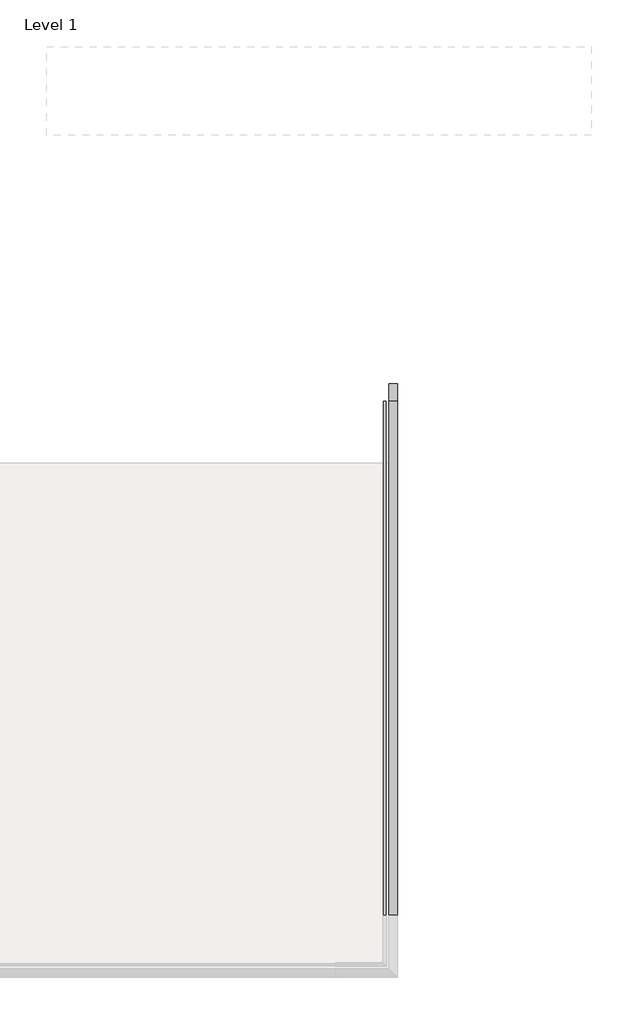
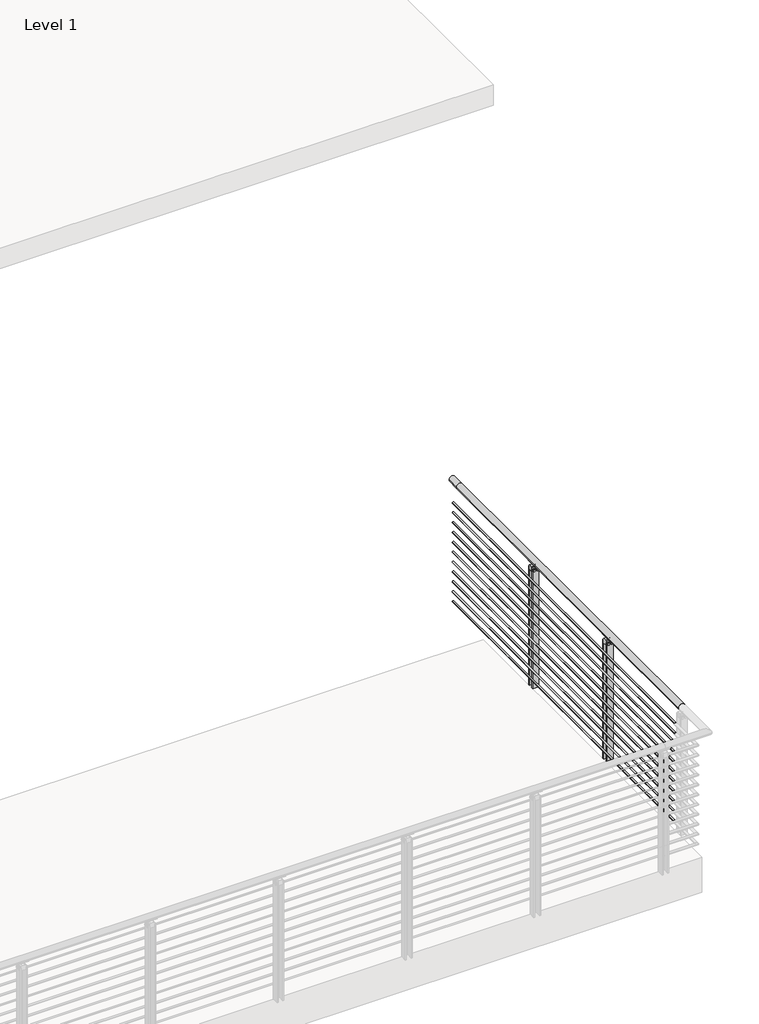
# One storey, part 11 of 36: 1 railing.
"""IFC4 building model written with IfcOpenShell, lengths in millimetres."""

import ifcopenshell
import ifcopenshell.guid

model = None  # the IFC model being written
_history = None  # IfcOwnerHistory: only IFC2X3 demands one
_inside = {}  # id of a spatial element -> (the spatial element, [elements in it])
_under = {}  # id of a project, library or spatial element -> (it, [spatial elements below it])
_declared = {}  # id of a project -> (the project, [libraries it declares])
_typed = {}  # id of a type object -> (the type object, [elements of that type])
_made_of = {}  # id of a material, layer set ... -> (it, [elements and type objects made of it])


def new_model(schema):
    """Start an empty IFC model of exactly this schema.

    Asked for "IFC4X3", IfcOpenShell would pick the latest addendum, in which some entities
    have other attributes; the version numbers below select the first issue.
    IFC2X3 requires an IfcOwnerHistory on every rooted entity: one is made here for all.
    """
    global model, _history
    if schema == "IFC4X3":
        model = ifcopenshell.file(schema_version=(4, 3, 0, 0))
    else:
        model = ifcopenshell.file(schema=schema)
    _inside.clear()
    _under.clear()
    _declared.clear()
    _typed.clear()
    _made_of.clear()
    _history = None
    if model.schema == "IFC2X3":
        org = make("IfcOrganization", Name="unknown")
        user = make(
            "IfcPersonAndOrganization",
            ThePerson=make("IfcPerson", FamilyName="unknown"),
            TheOrganization=org,
        )
        app = make(
            "IfcApplication",
            ApplicationDeveloper=org,
            Version="unknown",
            ApplicationFullName="unknown",
            ApplicationIdentifier="unknown",
        )
        _history = make(
            "IfcOwnerHistory",
            OwningUser=user,
            OwningApplication=app,
            ChangeAction="ADDED",
            CreationDate=0,
        )
    return model


def make(cls, **values):
    """One entity of the class cls with the attributes given. An attribute that is None is left unset."""
    return model.create_entity(
        cls, **{name: value for name, value in values.items() if value is not None}
    )


def rooted(cls, **values):
    """An entity with a GlobalId (a new one), such as an element, a storey or a relation."""
    return make(cls, GlobalId=ifcopenshell.guid.new(), OwnerHistory=_history, **values)


def si_unit(unit_type, name, prefix=None):
    """IfcSIUnit, for example si_unit("LENGTHUNIT", "METRE", prefix="MILLI")."""
    return make("IfcSIUnit", UnitType=unit_type, Prefix=prefix, Name=name)


def assignment(units):
    """IfcUnitAssignment: the units of a project."""
    return None if units is None else make("IfcUnitAssignment", Units=units)


def point(xyz):
    """IfcCartesianPoint."""
    return None if xyz is None else make("IfcCartesianPoint", Coordinates=xyz)


def direction(xyz):
    """IfcDirection."""
    return None if xyz is None else make("IfcDirection", DirectionRatios=xyz)


def frame(location, z_axis=None, x_axis=None):
    """IfcAxis2Placement3D, a coordinate frame: its origin and axes. An axis left out is left unset."""
    return make(
        "IfcAxis2Placement3D",
        Location=point(location),
        Axis=direction(z_axis),
        RefDirection=direction(x_axis),
    )


def frame_2d(location, x_axis=None):
    """IfcAxis2Placement2D, a coordinate frame in the plane: its origin and x axis."""
    return make(
        "IfcAxis2Placement2D", Location=point(location), RefDirection=direction(x_axis)
    )


def origin():
    """The frame at (0, 0, 0) with its axes left unset."""
    return frame((0.0, 0.0, 0.0))


def origin_with_axes():
    """The frame at (0, 0, 0) with the z axis (0, 0, 1) and the x axis (1, 0, 0) written out."""
    return frame((0.0, 0.0, 0.0), z_axis=(0.0, 0.0, 1.0), x_axis=(1.0, 0.0, 0.0))


def place(relative_to, where):
    """IfcLocalPlacement: puts the frame where relative to a parent placement (None: the world)."""
    return make(
        "IfcLocalPlacement", PlacementRelTo=relative_to, RelativePlacement=where
    )


def context(
    kind, dimensions, precision=None, world=None, true_north=None, identifier=None
):
    """IfcGeometricRepresentationContext, for example the 3D "Model" context."""
    return make(
        "IfcGeometricRepresentationContext",
        ContextIdentifier=identifier,
        ContextType=kind,
        CoordinateSpaceDimension=dimensions,
        Precision=precision,
        WorldCoordinateSystem=world,
        TrueNorth=true_north,
    )


def project(units=None, contexts=None):
    """IfcProject with its units and contexts."""
    return rooted(
        "IfcProject",
        Name="project",
        RepresentationContexts=contexts,
        UnitsInContext=assignment(units),
    )


def spatial(cls, under=None, at=None, **own):
    """A site, building, storey or space (cls), placed at a placement, below another one or the project."""
    s = rooted(cls, ObjectPlacement=at, **own)
    if under is not None:
        _under.setdefault(under.id(), (under, []))[1].append(s)
    return s


def polyline(points):
    """IfcPolyline through the points."""
    return make("IfcPolyline", Points=[point(p) for p in points])


def circle_curve(where, radius):
    """IfcCircle in the frame where."""
    return make("IfcCircle", Position=where, Radius=radius)


def trimmed(basis, trim1, trim2, sense, master):
    """IfcTrimmedCurve: the piece of a basis curve between two trims."""
    return make(
        "IfcTrimmedCurve",
        BasisCurve=basis,
        Trim1=trim1,
        Trim2=trim2,
        SenseAgreement=sense,
        MasterRepresentation=master,
    )


def segment(curve, same_sense, transition):
    """IfcCompositeCurveSegment."""
    return make(
        "IfcCompositeCurveSegment",
        Transition=transition,
        SameSense=same_sense,
        ParentCurve=curve,
    )


def composite_curve(segments, self_intersect=None):
    """IfcCompositeCurve: segments joined end to end."""
    return make("IfcCompositeCurve", Segments=segments, SelfIntersect=self_intersect)


def outline(outer, holes=None, kind="AREA"):
    """IfcArbitraryClosedProfileDef: a profile drawn as a closed curve; with holes, ...WithVoids."""
    if holes is None:
        return make("IfcArbitraryClosedProfileDef", ProfileType=kind, OuterCurve=outer)
    return make(
        "IfcArbitraryProfileDefWithVoids",
        ProfileType=kind,
        OuterCurve=outer,
        InnerCurves=holes,
    )


def extrude(swept, where, along, depth):
    """IfcExtrudedAreaSolid: the profile swept, set in the frame where, extruded along a direction by depth."""
    return make(
        "IfcExtrudedAreaSolid",
        SweptArea=swept,
        Position=where,
        ExtrudedDirection=direction(along),
        Depth=depth,
    )


def shape(context_of_items, identifier, shape_type, items):
    """IfcShapeRepresentation: the items that make up one representation, for example the "Body"."""
    return make(
        "IfcShapeRepresentation",
        ContextOfItems=context_of_items,
        RepresentationIdentifier=identifier,
        RepresentationType=shape_type,
        Items=items,
    )


def made_of(thing, what):
    """Note that an element or type object is made of a material, layer set ...; save() writes the relation."""
    if what is not None:
        _made_of.setdefault(what.id(), (what, []))[1].append(thing)
    return thing


def element(
    cls,
    number,
    at=None,
    inside=None,
    cuts=None,
    type_object=None,
    material=None,
    context=None,
    identifier="Body",
    shape_type=None,
    held_by="IfcProductDefinitionShape",
    body=None,
    shapes=None,
    **own,
):
    """One element of the class cls, such as IfcWall. Its Tag is "e" and its number.

    at: its placement. inside: the storey or other place that contains it. cuts: it is an
    opening in that element (IfcRelVoidsElement). A single representation is given by context,
    identifier, shape_type and body (its items); several are given by shapes. held_by: the class
    of the entity that holds the representations. save() writes the other relations.
    """
    e = rooted(cls, Tag="e%d" % number, ObjectPlacement=at, **own)
    if body is not None:
        shapes = [shape(context, identifier, shape_type, body)]
    if shapes is not None:
        e.Representation = make(held_by, Representations=shapes)
    if inside is not None:
        _inside.setdefault(inside.id(), (inside, []))[1].append(e)
    if cuts is not None:
        rooted(
            "IfcRelVoidsElement", RelatingBuildingElement=cuts, RelatedOpeningElement=e
        )
    if type_object is not None:
        _typed.setdefault(type_object.id(), (type_object, []))[1].append(e)
    return made_of(e, material)


def aggregate(whole, parts):
    """IfcRelAggregates: a whole, such as a stair, and the parts it consists of."""
    return rooted("IfcRelAggregates", RelatingObject=whole, RelatedObjects=parts)


def save(model, path):
    """Write the relations noted so far, then the file.

    IfcRelAggregates (storeys below a building ...), IfcRelContainedInSpatialStructure (elements
    in a storey), IfcRelDefinesByType, IfcRelAssociatesMaterial and IfcRelDeclares: one each for
    every whole, place, type object, material and project.
    """
    for whole, parts in _under.values():
        aggregate(whole, parts)
    for where, things in _inside.values():
        rooted(
            "IfcRelContainedInSpatialStructure",
            RelatedElements=things,
            RelatingStructure=where,
        )
    for kind, things in _typed.values():
        rooted("IfcRelDefinesByType", RelatedObjects=things, RelatingType=kind)
    for what, things in _made_of.values():
        rooted("IfcRelAssociatesMaterial", RelatedObjects=things, RelatingMaterial=what)
    for by, libraries in _declared.values():
        rooted("IfcRelDeclares", RelatingContext=by, RelatedDefinitions=libraries)
    model.write(path)


def plane_surface(at):
    """IfcPlane: the flat surface through the origin of the frame at, square to its z axis."""
    return make("IfcPlane", Position=at)


def cylinder_surface(at, radius):
    """IfcCylindricalSurface: all points at the distance radius from the z axis of the frame at."""
    return make("IfcCylindricalSurface", Position=at, Radius=radius)


def revolved_surface(curve, axis_point, axis_direction):
    """IfcSurfaceOfRevolution: the curve turned about the line through axis_point along axis_direction."""
    return make(
        "IfcSurfaceOfRevolution",
        SweptCurve=make("IfcArbitraryOpenProfileDef", ProfileType="CURVE", Curve=curve),
        AxisPosition=make("IfcAxis1Placement", Location=point(axis_point), Axis=direction(axis_direction)),
    )


def advanced_brep(points, edges, surfaces, faces):
    """IfcAdvancedBrep: a solid bounded by faces that lie on surfaces and meet in shared edges.

    An edge is (start, end): straight between two places in points (the first is 0);
    or (start, end, curve); or (start, end, curve, False) where it runs against its curve.
    A face is (place in surfaces, loops), or (place, loops, False) where it looks against
    its surface's normal. A loop lists edges by number (the first is 1), with a minus sign
    where the edge is run from its end to its start. The first loop is the outer one.
    """
    corners = [point(p) for p in points]
    vertices = [make("IfcVertexPoint", VertexGeometry=c) for c in corners]
    made = []
    for start, end, *more in edges:
        made.append(
            make(
                "IfcEdgeCurve",
                EdgeStart=vertices[start],
                EdgeEnd=vertices[end],
                EdgeGeometry=more[0] if more else make("IfcPolyline", Points=[corners[start], corners[end]]),
                SameSense=more[1] if len(more) > 1 else True,
            )
        )
    hull = []
    for where, loops, *sense in faces:
        bounds = []
        for j, loop in enumerate(loops):
            ring = [make("IfcOrientedEdge", EdgeElement=made[abs(k) - 1], Orientation=k > 0) for k in loop]
            bounds.append(
                make(
                    "IfcFaceOuterBound" if j == 0 else "IfcFaceBound",
                    Bound=make("IfcEdgeLoop", EdgeList=ring),
                    Orientation=True,
                )
            )
        hull.append(make("IfcAdvancedFace", Bounds=bounds, FaceSurface=surfaces[where], SameSense=sense[0] if sense else True))
    return make("IfcAdvancedBrep", Outer=make("IfcClosedShell", CfsFaces=hull))


model = new_model("IFC4")

# Units and contexts
model_context = context("Model", 3, world=origin())
ifc_project = project(units=[si_unit("LENGTHUNIT", "METRE", prefix="MILLI")], contexts=[model_context])

# Site, building, storey
site = spatial("IfcSite", under=ifc_project)
building = spatial("IfcBuilding", under=site)
storey = spatial("IfcBuildingStorey", under=building, Name="Level 1", Elevation=0.0)

# Railing
placement = place(None, origin())
element("IfcRailing", 1, ObjectType="VIVA-BLADE-Multiline-Weld Mount-Straight", at=placement, inside=storey, context=model_context, shape_type="SolidModel", body=[
    advanced_brep(
    [(45397.5868903, -74697.7334719, 1054.1), (45346.7868903, -74697.7334719, 1054.1), (45397.5868903, -71649.7334719, 1054.1), (45346.7868903, -71649.7334719, 1054.1), (45397.5868903, -71548.1334719, 1054.1), (45346.7868903, -71548.1334719, 1054.1)],
    [
        (0, 1, circle_curve(frame((45372.1868903, -74697.7334719, 1054.1), z_axis=(0.0, -1.0, 0.0), x_axis=(-1.0, 0.0, 0.0)), 25.4)),
        (1, 0, circle_curve(frame((45372.1868903, -74697.7334719, 1054.1), z_axis=(0.0, -1.0, 0.0), x_axis=(-1.0, 0.0, 0.0)), 25.4)),
        (0, 2),
        (2, 3, circle_curve(frame((45372.1868903, -71649.7334719, 1054.1), z_axis=(0.0, -1.0, 0.0), x_axis=(-1.0, 0.0, 0.0)), 25.4)),
        (3, 1),
        (3, 2, circle_curve(frame((45372.1868903, -71649.7334719, 1054.1), z_axis=(0.0, -1.0, 0.0), x_axis=(-1.0, 0.0, 0.0)), 25.4)),
        (4, 5, circle_curve(frame((45372.1868903, -71548.1334719, 1054.1), z_axis=(0.0, 1.0, 0.0), x_axis=(-1.0, 0.0, 0.0)), 25.4)),
        (5, 4, circle_curve(frame((45372.1868903, -71548.1334719, 1054.1), z_axis=(0.0, 1.0, 0.0), x_axis=(-1.0, 0.0, 0.0)), 25.4)),
        (2, 4),
        (5, 3),
    ],
    [
        plane_surface(frame((45372.1868903, -74697.7334719, 1079.5), z_axis=(0.0, -1.0, 0.0), x_axis=(0.0, 0.0, 1.0))),
        cylinder_surface(frame((45372.1868903, -74697.7334719, 1054.1), z_axis=(0.0, -1.0, 0.0), x_axis=(-1.0, 0.0, 0.0)), 25.4),
        plane_surface(frame((45372.1868903, -71548.1334719, 1079.5), z_axis=(0.0, 1.0, 0.0), x_axis=(0.0, 0.0, 1.0))),
        cylinder_surface(frame((45372.1868903, -71649.7334719, 1054.1), z_axis=(0.0, -1.0, 0.0), x_axis=(-1.0, 0.0, 0.0)), 25.4),
    ],
    [
        (0, [[1, 2]]),
        (1, [[-1, 3, 4, 5]]),
        (1, [[-2, -5, 6, -3]]),
        (2, [[7, 8]]),
        (3, [[-4, 9, -8, 10]]),
        (3, [[-6, -10, -7, -9]]),
    ],
),
    extrude(outline(composite_curve([segment(trimmed(circle_curve(frame_2d((933.45, 45321.3868903)), 6.35), [point((933.45, 45315.0368903))], [point((933.45, 45327.7368903))], False, "CARTESIAN"), True, "CONTINUOUS"), segment(trimmed(circle_curve(frame_2d((933.45, 45321.3868903)), 6.35), [point((933.45, 45327.7368903))], [point((933.45, 45315.0368903))], False, "CARTESIAN"), True, "CONTINUOUS")], self_intersect=False)), frame((0.0, -74697.7334719, 0.0), z_axis=(0.0, 1.0, 0.0), x_axis=(0.0, 0.0, 1.0)), (0.0, 0.0, 1.0), 3048.0),
    extrude(outline(composite_curve([segment(trimmed(circle_curve(frame_2d((850.9, 45321.3868903)), 6.35), [point((850.9, 45315.0368903))], [point((850.9, 45327.7368903))], False, "CARTESIAN"), True, "CONTINUOUS"), segment(trimmed(circle_curve(frame_2d((850.9, 45321.3868903)), 6.35), [point((850.9, 45327.7368903))], [point((850.9, 45315.0368903))], False, "CARTESIAN"), True, "CONTINUOUS")], self_intersect=False)), frame((0.0, -74697.7334719, 0.0), z_axis=(0.0, 1.0, 0.0), x_axis=(0.0, 0.0, 1.0)), (0.0, 0.0, 1.0), 3048.0),
    extrude(outline(composite_curve([segment(trimmed(circle_curve(frame_2d((768.35, 45321.3868903)), 6.35), [point((768.35, 45315.0368903))], [point((768.35, 45327.7368903))], False, "CARTESIAN"), True, "CONTINUOUS"), segment(trimmed(circle_curve(frame_2d((768.35, 45321.3868903)), 6.35), [point((768.35, 45327.7368903))], [point((768.35, 45315.0368903))], False, "CARTESIAN"), True, "CONTINUOUS")], self_intersect=False)), frame((0.0, -74697.7334719, 0.0), z_axis=(0.0, 1.0, 0.0), x_axis=(0.0, 0.0, 1.0)), (0.0, 0.0, 1.0), 3048.0),
    extrude(outline(composite_curve([segment(trimmed(circle_curve(frame_2d((685.8, 45321.3868903)), 6.35), [point((685.8, 45315.0368903))], [point((685.8, 45327.7368903))], False, "CARTESIAN"), True, "CONTINUOUS"), segment(trimmed(circle_curve(frame_2d((685.8, 45321.3868903)), 6.35), [point((685.8, 45327.7368903))], [point((685.8, 45315.0368903))], False, "CARTESIAN"), True, "CONTINUOUS")], self_intersect=False)), frame((0.0, -74697.7334719, 0.0), z_axis=(0.0, 1.0, 0.0), x_axis=(0.0, 0.0, 1.0)), (0.0, 0.0, 1.0), 3048.0),
    extrude(outline(composite_curve([segment(trimmed(circle_curve(frame_2d((603.25, 45321.3868903)), 6.35), [point((603.25, 45315.0368903))], [point((603.25, 45327.7368903))], False, "CARTESIAN"), True, "CONTINUOUS"), segment(trimmed(circle_curve(frame_2d((603.25, 45321.3868903)), 6.35), [point((603.25, 45327.7368903))], [point((603.25, 45315.0368903))], False, "CARTESIAN"), True, "CONTINUOUS")], self_intersect=False)), frame((0.0, -74697.7334719, 0.0), z_axis=(0.0, 1.0, 0.0), x_axis=(0.0, 0.0, 1.0)), (0.0, 0.0, 1.0), 3048.0),
    extrude(outline(composite_curve([segment(trimmed(circle_curve(frame_2d((520.7, 45321.3868903)), 6.35), [point((520.7, 45315.0368903))], [point((520.7, 45327.7368903))], False, "CARTESIAN"), True, "CONTINUOUS"), segment(trimmed(circle_curve(frame_2d((520.7, 45321.3868903)), 6.35), [point((520.7, 45327.7368903))], [point((520.7, 45315.0368903))], False, "CARTESIAN"), True, "CONTINUOUS")], self_intersect=False)), frame((0.0, -74697.7334719, 0.0), z_axis=(0.0, 1.0, 0.0), x_axis=(0.0, 0.0, 1.0)), (0.0, 0.0, 1.0), 3048.0),
    extrude(outline(composite_curve([segment(trimmed(circle_curve(frame_2d((438.15, 45321.3868903)), 6.35), [point((438.15, 45315.0368903))], [point((438.15, 45327.7368903))], False, "CARTESIAN"), True, "CONTINUOUS"), segment(trimmed(circle_curve(frame_2d((438.15, 45321.3868903)), 6.35), [point((438.15, 45327.7368903))], [point((438.15, 45315.0368903))], False, "CARTESIAN"), True, "CONTINUOUS")], self_intersect=False)), frame((0.0, -74697.7334719, 0.0), z_axis=(0.0, 1.0, 0.0), x_axis=(0.0, 0.0, 1.0)), (0.0, 0.0, 1.0), 3048.0),
    extrude(outline(composite_curve([segment(trimmed(circle_curve(frame_2d((355.6, 45321.3868903)), 6.35), [point((355.6, 45315.0368903))], [point((355.6, 45327.7368903))], False, "CARTESIAN"), True, "CONTINUOUS"), segment(trimmed(circle_curve(frame_2d((355.6, 45321.3868903)), 6.35), [point((355.6, 45327.7368903))], [point((355.6, 45315.0368903))], False, "CARTESIAN"), True, "CONTINUOUS")], self_intersect=False)), frame((0.0, -74697.7334719, 0.0), z_axis=(0.0, 1.0, 0.0), x_axis=(0.0, 0.0, 1.0)), (0.0, 0.0, 1.0), 3048.0),
    extrude(outline(composite_curve([segment(trimmed(circle_curve(frame_2d((273.05, 45321.3868903)), 6.35), [point((273.05, 45315.0368903))], [point((273.05, 45327.7368903))], False, "CARTESIAN"), True, "CONTINUOUS"), segment(trimmed(circle_curve(frame_2d((273.05, 45321.3868903)), 6.35), [point((273.05, 45327.7368903))], [point((273.05, 45315.0368903))], False, "CARTESIAN"), True, "CONTINUOUS")], self_intersect=False)), frame((0.0, -74697.7334719, 0.0), z_axis=(0.0, 1.0, 0.0), x_axis=(0.0, 0.0, 1.0)), (0.0, 0.0, 1.0), 3048.0),
    extrude(outline(composite_curve([segment(trimmed(circle_curve(frame_2d((190.5, 45321.3868903)), 6.35), [point((190.5, 45315.0368903))], [point((190.5, 45327.7368903))], False, "CARTESIAN"), True, "CONTINUOUS"), segment(trimmed(circle_curve(frame_2d((190.5, 45321.3868903)), 6.35), [point((190.5, 45327.7368903))], [point((190.5, 45315.0368903))], False, "CARTESIAN"), True, "CONTINUOUS")], self_intersect=False)), frame((0.0, -74697.7334719, 0.0), z_axis=(0.0, 1.0, 0.0), x_axis=(0.0, 0.0, 1.0)), (0.0, 0.0, 1.0), 3048.0),
    extrude(outline(composite_curve([segment(trimmed(circle_curve(frame_2d((107.95, 45321.3868903)), 6.35), [point((107.95, 45315.0368903))], [point((107.95, 45327.7368903))], False, "CARTESIAN"), True, "CONTINUOUS"), segment(trimmed(circle_curve(frame_2d((107.95, 45321.3868903)), 6.35), [point((107.95, 45327.7368903))], [point((107.95, 45315.0368903))], False, "CARTESIAN"), True, "CONTINUOUS")], self_intersect=False)), frame((0.0, -74697.7334719, 0.0), z_axis=(0.0, 1.0, 0.0), x_axis=(0.0, 0.0, 1.0)), (0.0, 0.0, 1.0), 3048.0),
    advanced_brep(
    [(45359.4267667, -72620.4960719, 1032.0967655), (45384.2988312, -72620.4960719, 1031.9535285), (45387.1077615, -72620.4960719, 1027.1267745), (45355.5908693, -72620.4960719, 1027.707533), (45359.4267667, -72710.9708719, 1032.0967655), (45355.5908693, -72710.9708719, 1027.707533), (45387.2215549, -72710.9708719, 1027.1893964), (45384.3858033, -72710.9708719, 1032.0018447)],
    [
        (0, 1, circle_curve(frame((45371.9905696, -72620.4960719, 1054.2115898), z_axis=(0.0, -1.0, 0.0), x_axis=(-1.0, 0.0, 0.0)), 25.4345159)),
        (1, 2, circle_curve(frame((45385.6304565, -72620.4960719, 1029.4993599), z_axis=(0.0, 1.0, 0.0), x_axis=(-1.0, 0.0, 0.0)), 2.7949225)),
        (2, 3, circle_curve(frame((45371.8571065, -72620.4960719, 1054.9742164), z_axis=(0.0, 1.0, 0.0), x_axis=(-1.0, 0.0, 0.0)), 31.75)),
        (3, 0, circle_curve(frame((45357.879209, -72620.4960719, 1029.5784521), z_axis=(0.0, 1.0, 0.0), x_axis=(-1.0, 0.0, 0.0)), 2.9558141)),
        (4, 5, circle_curve(frame((45357.879209, -72710.9708719, 1029.5784521), z_axis=(0.0, -1.0, 0.0), x_axis=(-1.0, 0.0, 0.0)), 2.9558141)),
        (5, 6, circle_curve(frame((45371.8571065, -72710.9708719, 1054.9742164), z_axis=(0.0, -1.0, 0.0), x_axis=(-1.0, 0.0, 0.0)), 31.75)),
        (6, 7, circle_curve(frame((45385.6304565, -72710.9708719, 1029.4993599), z_axis=(0.0, -1.0, 0.0), x_axis=(-1.0, 0.0, 0.0)), 2.7949225)),
        (7, 4, circle_curve(frame((45371.9905696, -72710.9708719, 1054.2115898), z_axis=(0.0, 1.0, 0.0), x_axis=(-1.0, 0.0, 0.0)), 25.4345159)),
        (0, 4),
        (7, 1),
        (6, 2),
        (5, 3),
    ],
    [
        plane_surface(frame((45346.5560537, -72620.4960719, 1054.2115898), z_axis=(0.0, 1.0, 0.0), x_axis=(0.0, 0.0, -1.0))),
        plane_surface(frame((45346.5560537, -72710.9708719, 1054.2115898), z_axis=(0.0, -1.0, 0.0), x_axis=(0.0, 0.0, 1.0))),
        revolved_surface(polyline([(45346.5560537, -72710.9708719, 1054.2115898), (45346.5560537, -72620.4960719, 1054.2115898)]), (45371.9905696, -72710.9708719, 1054.2115898), (0.0, -1.0, 0.0)),
        cylinder_surface(frame((45385.6304565, -72710.9708719, 1029.4993599), z_axis=(0.0, 1.0, 0.0), x_axis=(-1.0, 0.0, 0.0)), 2.7949225),
        cylinder_surface(frame((45371.8571065, -72710.9708719, 1054.9742164), z_axis=(0.0, 1.0, 0.0), x_axis=(-1.0, 0.0, 0.0)), 31.75),
        cylinder_surface(frame((45357.879209, -72710.9708719, 1029.5784521), z_axis=(0.0, 1.0, 0.0), x_axis=(-1.0, 0.0, 0.0)), 2.9558141),
    ],
    [
        (0, [[1, 2, 3, 4]]),
        (1, [[5, 6, 7, 8]]),
        (2, [[-1, 9, -8, 10]]),
        (3, [[-2, -10, -7, 11]]),
        (4, [[-3, -11, -6, 12]]),
        (5, [[-4, -12, -5, -9]]),
    ],
),
    advanced_brep(
    [(45369.6468903, -72653.0334719, 1014.4125), (45369.6468903, -72678.4334719, 1014.4125), (45369.6468903, -72692.8013867, 1028.7804149), (45369.6468903, -72638.665557, 1028.7804149), (45374.7268903, -72653.0334719, 1014.4125), (45374.7268903, -72638.665557, 1028.7804149), (45374.7268903, -72692.8013867, 1028.7804149), (45374.7268903, -72678.4334719, 1014.4125)],
    [
        (0, 1),
        (1, 2, circle_curve(frame((45369.6468903, -72692.8013867, 1014.4125), z_axis=(1.0, 0.0, 0.0), x_axis=(0.0, -1.0, 0.0)), 14.3679149)),
        (2, 3),
        (3, 0, circle_curve(frame((45369.6468903, -72638.665557, 1014.4125), z_axis=(1.0, 0.0, 0.0), x_axis=(0.0, -1.0, 0.0)), 14.3679149)),
        (4, 5, circle_curve(frame((45374.7268903, -72638.665557, 1014.4125), z_axis=(-1.0, 0.0, 0.0), x_axis=(0.0, -1.0, 0.0)), 14.3679149)),
        (5, 6),
        (6, 7, circle_curve(frame((45374.7268903, -72692.8013867, 1014.4125), z_axis=(-1.0, 0.0, 0.0), x_axis=(0.0, -1.0, 0.0)), 14.3679149)),
        (7, 4),
        (0, 4),
        (7, 1),
        (6, 2),
        (5, 3),
    ],
    [
        plane_surface(frame((45369.6468903, -72678.4334719, 1014.4125), z_axis=(-1.0, 0.0, 0.0), x_axis=(0.0, -1.0, 0.0))),
        plane_surface(frame((45374.7268903, -72678.4334719, 1014.4125), z_axis=(1.0, 0.0, 0.0), x_axis=(0.0, 1.0, 0.0))),
        plane_surface(frame((45369.6468903, -72653.0334719, 1014.4125), z_axis=(0.0, 0.0, -1.0), x_axis=(1.0, 0.0, 0.0))),
        revolved_surface(polyline([(45374.7268903, -72707.16930159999, 1014.4125), (45369.6468903, -72707.16930159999, 1014.4125)]), (45374.7268903, -72692.8013867, 1014.4125), (1.0, 0.0, 0.0)),
        plane_surface(frame((45369.6468903, -72692.8013867, 1028.7804149), z_axis=(0.0, 0.0, 1.0), x_axis=(1.0, 0.0, 0.0))),
        revolved_surface(polyline([(45374.7268903, -72653.0334719, 1014.4125), (45369.6468903, -72653.0334719, 1014.4125)]), (45374.7268903, -72638.665557, 1014.4125), (1.0, 0.0, 0.0)),
    ],
    [
        (0, [[1, 2, 3, 4]]),
        (1, [[5, 6, 7, 8]]),
        (2, [[-1, 9, -8, 10]]),
        (3, [[-2, -10, -7, 11]]),
        (4, [[-3, -11, -6, 12]]),
        (5, [[-4, -12, -5, -9]]),
    ],
),
    extrude(outline(polyline([(45346.7870937, -72692.8083075), (45346.7870937, -72684.7834719), (45397.5894183, -72684.7834719), (45397.5894183, -72692.8083075), (45346.7870937, -72692.8083075)])), origin_with_axes(), (0.0, 0.0, 1.0), 996.95),
    extrude(outline(composite_curve([segment(trimmed(circle_curve(frame_2d((986.0416929, 45384.8893673)), 8.89), [point((986.0416929, 45393.7793673))], [point((986.0416929, 45375.9993673))], False, "CARTESIAN"), True, "CONTINUOUS"), segment(trimmed(circle_curve(frame_2d((986.0416929, 45384.8893673)), 8.89), [point((986.0416929, 45375.9993673))], [point((986.0416929, 45393.7793673))], False, "CARTESIAN"), True, "CONTINUOUS")], self_intersect=False)), frame((0.0, -72697.4834719, 0.0), z_axis=(0.0, 1.0, 0.0), x_axis=(0.0, 0.0, 1.0)), (0.0, 0.0, 1.0), 63.4880631),
    extrude(outline(composite_curve([segment(trimmed(circle_curve(frame_2d((986.0416929, 45359.4894693)), 8.89), [point((986.0416929, 45368.3794693))], [point((986.0416929, 45350.5994693))], False, "CARTESIAN"), True, "CONTINUOUS"), segment(trimmed(circle_curve(frame_2d((986.0416929, 45359.4894693)), 8.89), [point((986.0416929, 45350.5994693))], [point((986.0416929, 45368.3794693))], False, "CARTESIAN"), True, "CONTINUOUS")], self_intersect=False)), frame((0.0, -72697.4834719, 0.0), z_axis=(0.0, 1.0, 0.0), x_axis=(0.0, 0.0, 1.0)), (0.0, 0.0, 1.0), 63.4880631),
    extrude(outline(polyline([(-72684.7834719, 974.7123), (-72684.7834719, 1008.0625), (-72678.4334719, 1014.4125), (-72653.0334719, 1014.4125), (-72646.6834719, 1008.0625), (-72646.6834719, 974.7123), (-72684.7834719, 974.7123)])), frame((45346.7868903, 0.0, 0.0), z_axis=(1.0, 0.0, 0.0), x_axis=(0.0, 1.0, 0.0)), (0.0, 0.0, 1.0), 50.8025279),
    extrude(outline(polyline([(45346.7870937, -72646.6835099), (45346.7870937, -72638.6825099), (45397.5894183, -72638.6825099), (45397.5894183, -72646.6835099), (45346.7870937, -72646.6835099)])), origin_with_axes(), (0.0, 0.0, 1.0), 996.95),
    advanced_brep(
    [(45359.4267667, -73636.4960719, 1032.0967655), (45384.2988312, -73636.4960719, 1031.9535285), (45387.1077615, -73636.4960719, 1027.1267745), (45355.5908693, -73636.4960719, 1027.707533), (45359.4267667, -73726.9708719, 1032.0967655), (45355.5908693, -73726.9708719, 1027.707533), (45387.2215549, -73726.9708719, 1027.1893964), (45384.3858033, -73726.9708719, 1032.0018447)],
    [
        (0, 1, circle_curve(frame((45371.9905696, -73636.4960719, 1054.2115898), z_axis=(0.0, -1.0, 0.0), x_axis=(-1.0, 0.0, 0.0)), 25.4345159)),
        (1, 2, circle_curve(frame((45385.6304565, -73636.4960719, 1029.4993599), z_axis=(0.0, 1.0, 0.0), x_axis=(-1.0, 0.0, 0.0)), 2.7949225)),
        (2, 3, circle_curve(frame((45371.8571065, -73636.4960719, 1054.9742164), z_axis=(0.0, 1.0, 0.0), x_axis=(-1.0, 0.0, 0.0)), 31.75)),
        (3, 0, circle_curve(frame((45357.879209, -73636.4960719, 1029.5784521), z_axis=(0.0, 1.0, 0.0), x_axis=(-1.0, 0.0, 0.0)), 2.9558141)),
        (4, 5, circle_curve(frame((45357.879209, -73726.9708719, 1029.5784521), z_axis=(0.0, -1.0, 0.0), x_axis=(-1.0, 0.0, 0.0)), 2.9558141)),
        (5, 6, circle_curve(frame((45371.8571065, -73726.9708719, 1054.9742164), z_axis=(0.0, -1.0, 0.0), x_axis=(-1.0, 0.0, 0.0)), 31.75)),
        (6, 7, circle_curve(frame((45385.6304565, -73726.9708719, 1029.4993599), z_axis=(0.0, -1.0, 0.0), x_axis=(-1.0, 0.0, 0.0)), 2.7949225)),
        (7, 4, circle_curve(frame((45371.9905696, -73726.9708719, 1054.2115898), z_axis=(0.0, 1.0, 0.0), x_axis=(-1.0, 0.0, 0.0)), 25.4345159)),
        (0, 4),
        (7, 1),
        (6, 2),
        (5, 3),
    ],
    [
        plane_surface(frame((45346.5560537, -73636.4960719, 1054.2115898), z_axis=(0.0, 1.0, 0.0), x_axis=(0.0, 0.0, -1.0))),
        plane_surface(frame((45346.5560537, -73726.9708719, 1054.2115898), z_axis=(0.0, -1.0, 0.0), x_axis=(0.0, 0.0, 1.0))),
        revolved_surface(polyline([(45346.5560537, -73726.9708719, 1054.2115898), (45346.5560537, -73636.4960719, 1054.2115898)]), (45371.9905696, -73726.9708719, 1054.2115898), (0.0, -1.0, 0.0)),
        cylinder_surface(frame((45385.6304565, -73726.9708719, 1029.4993599), z_axis=(0.0, 1.0, 0.0), x_axis=(-1.0, 0.0, 0.0)), 2.7949225),
        cylinder_surface(frame((45371.8571065, -73726.9708719, 1054.9742164), z_axis=(0.0, 1.0, 0.0), x_axis=(-1.0, 0.0, 0.0)), 31.75),
        cylinder_surface(frame((45357.879209, -73726.9708719, 1029.5784521), z_axis=(0.0, 1.0, 0.0), x_axis=(-1.0, 0.0, 0.0)), 2.9558141),
    ],
    [
        (0, [[1, 2, 3, 4]]),
        (1, [[5, 6, 7, 8]]),
        (2, [[-1, 9, -8, 10]]),
        (3, [[-2, -10, -7, 11]]),
        (4, [[-3, -11, -6, 12]]),
        (5, [[-4, -12, -5, -9]]),
    ],
),
    advanced_brep(
    [(45369.6468903, -73669.0334719, 1014.4125), (45369.6468903, -73694.4334719, 1014.4125), (45369.6468903, -73708.8013867, 1028.7804149), (45369.6468903, -73654.665557, 1028.7804149), (45374.7268903, -73669.0334719, 1014.4125), (45374.7268903, -73654.665557, 1028.7804149), (45374.7268903, -73708.8013867, 1028.7804149), (45374.7268903, -73694.4334719, 1014.4125)],
    [
        (0, 1),
        (1, 2, circle_curve(frame((45369.6468903, -73708.8013867, 1014.4125), z_axis=(1.0, 0.0, 0.0), x_axis=(0.0, -1.0, 0.0)), 14.3679149)),
        (2, 3),
        (3, 0, circle_curve(frame((45369.6468903, -73654.665557, 1014.4125), z_axis=(1.0, 0.0, 0.0), x_axis=(0.0, -1.0, 0.0)), 14.3679149)),
        (4, 5, circle_curve(frame((45374.7268903, -73654.665557, 1014.4125), z_axis=(-1.0, 0.0, 0.0), x_axis=(0.0, -1.0, 0.0)), 14.3679149)),
        (5, 6),
        (6, 7, circle_curve(frame((45374.7268903, -73708.8013867, 1014.4125), z_axis=(-1.0, 0.0, 0.0), x_axis=(0.0, -1.0, 0.0)), 14.3679149)),
        (7, 4),
        (0, 4),
        (7, 1),
        (6, 2),
        (5, 3),
    ],
    [
        plane_surface(frame((45369.6468903, -73694.4334719, 1014.4125), z_axis=(-1.0, 0.0, 0.0), x_axis=(0.0, -1.0, 0.0))),
        plane_surface(frame((45374.7268903, -73694.4334719, 1014.4125), z_axis=(1.0, 0.0, 0.0), x_axis=(0.0, 1.0, 0.0))),
        plane_surface(frame((45369.6468903, -73669.0334719, 1014.4125), z_axis=(0.0, 0.0, -1.0), x_axis=(1.0, 0.0, 0.0))),
        revolved_surface(polyline([(45374.7268903, -73723.16930159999, 1014.4125), (45369.6468903, -73723.16930159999, 1014.4125)]), (45374.7268903, -73708.8013867, 1014.4125), (1.0, 0.0, 0.0)),
        plane_surface(frame((45369.6468903, -73708.8013867, 1028.7804149), z_axis=(0.0, 0.0, 1.0), x_axis=(1.0, 0.0, 0.0))),
        revolved_surface(polyline([(45374.7268903, -73669.0334719, 1014.4125), (45369.6468903, -73669.0334719, 1014.4125)]), (45374.7268903, -73654.665557, 1014.4125), (1.0, 0.0, 0.0)),
    ],
    [
        (0, [[1, 2, 3, 4]]),
        (1, [[5, 6, 7, 8]]),
        (2, [[-1, 9, -8, 10]]),
        (3, [[-2, -10, -7, 11]]),
        (4, [[-3, -11, -6, 12]]),
        (5, [[-4, -12, -5, -9]]),
    ],
),
    extrude(outline(polyline([(45346.7870937, -73708.8083075), (45346.7870937, -73700.7834719), (45397.5894183, -73700.7834719), (45397.5894183, -73708.8083075), (45346.7870937, -73708.8083075)])), origin_with_axes(), (0.0, 0.0, 1.0), 996.95),
    extrude(outline(composite_curve([segment(trimmed(circle_curve(frame_2d((986.0416929, 45384.8893673)), 8.89), [point((986.0416929, 45393.7793673))], [point((986.0416929, 45375.9993673))], False, "CARTESIAN"), True, "CONTINUOUS"), segment(trimmed(circle_curve(frame_2d((986.0416929, 45384.8893673)), 8.89), [point((986.0416929, 45375.9993673))], [point((986.0416929, 45393.7793673))], False, "CARTESIAN"), True, "CONTINUOUS")], self_intersect=False)), frame((0.0, -73713.4834719, 0.0), z_axis=(0.0, 1.0, 0.0), x_axis=(0.0, 0.0, 1.0)), (0.0, 0.0, 1.0), 63.4880631),
    extrude(outline(composite_curve([segment(trimmed(circle_curve(frame_2d((986.0416929, 45359.4894693)), 8.89), [point((986.0416929, 45368.3794693))], [point((986.0416929, 45350.5994693))], False, "CARTESIAN"), True, "CONTINUOUS"), segment(trimmed(circle_curve(frame_2d((986.0416929, 45359.4894693)), 8.89), [point((986.0416929, 45350.5994693))], [point((986.0416929, 45368.3794693))], False, "CARTESIAN"), True, "CONTINUOUS")], self_intersect=False)), frame((0.0, -73713.4834719, 0.0), z_axis=(0.0, 1.0, 0.0), x_axis=(0.0, 0.0, 1.0)), (0.0, 0.0, 1.0), 63.4880631),
    extrude(outline(polyline([(-73700.7834719, 974.7123), (-73700.7834719, 1008.0625), (-73694.4334719, 1014.4125), (-73669.0334719, 1014.4125), (-73662.6834719, 1008.0625), (-73662.6834719, 974.7123), (-73700.7834719, 974.7123)])), frame((45346.7868903, 0.0, 0.0), z_axis=(1.0, 0.0, 0.0), x_axis=(0.0, 1.0, 0.0)), (0.0, 0.0, 1.0), 50.8025279),
    extrude(outline(polyline([(45346.7870937, -73662.6835099), (45346.7870937, -73654.6825099), (45397.5894183, -73654.6825099), (45397.5894183, -73662.6835099), (45346.7870937, -73662.6835099)])), origin_with_axes(), (0.0, 0.0, 1.0), 996.95),
])

save(model, "model.ifc")
